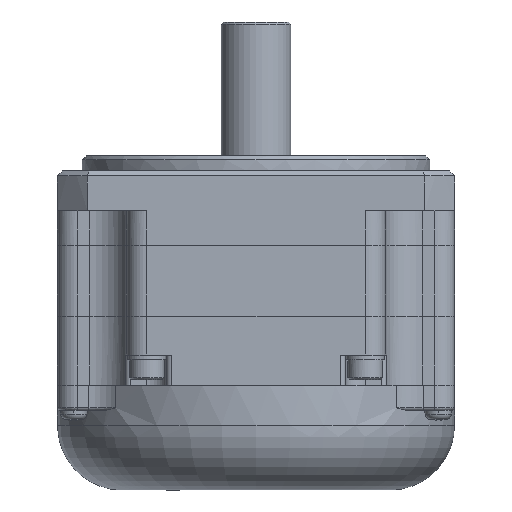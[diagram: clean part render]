
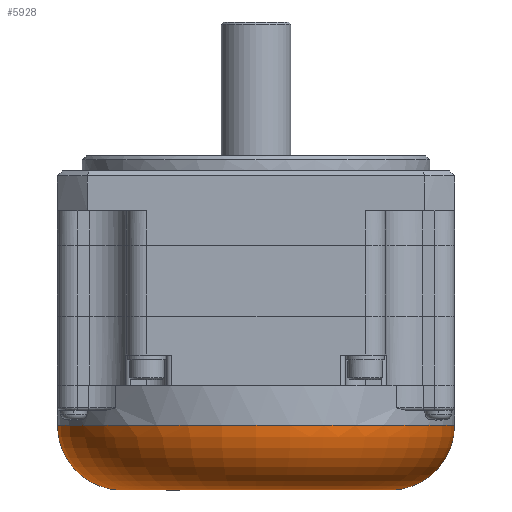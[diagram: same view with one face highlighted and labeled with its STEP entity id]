
A CAD part, front view. The second image highlights one B-rep face of the part: STEP entity #5928.
In plain terms, the highlighted toroidal (fillet/blend) face has major radius 27 mm and minor radius 13 mm.
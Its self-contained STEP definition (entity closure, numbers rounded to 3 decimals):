
#81 = EDGE_LOOP ( 'NONE', ( #8705, #8706, #8707, #8708 ) ) ;
#2972 = CIRCLE ( 'NONE', #21255, 40. ) ;
#3008 = CIRCLE ( 'NONE', #21261, 13. ) ;
#3011 = CIRCLE ( 'NONE', #21262, 13. ) ;
#3896 = EDGE_CURVE ( 'NONE', #12754, #12760, #2972, .T. ) ;
#3917 = EDGE_CURVE ( 'NONE', #12754, #12738, #3008, .T. ) ;
#3918 = EDGE_CURVE ( 'NONE', #12738, #12937, #4576, .T. ) ;
#3919 = EDGE_CURVE ( 'NONE', #12760, #12937, #3011, .T. ) ;
#4576 = B_SPLINE_CURVE_WITH_KNOTS ( 'NONE', 3,
 ( #9730, #9731, #9762, #9766, #9760, #9693, #9689, #9703, #9702, #9705, #9696, #9701, #9704, #9763, #9764, #9756, #9755, #9754, #9753, #9752, #9751, #9750, #9749, #9748, #9747, #9746, #9745, #9744, #9743, #9742, #9741, #9740, #9739, #9738 ),
 .UNSPECIFIED., .F., .F.,
 ( 4, 2, 2, 2, 2, 2, 2, 2, 2, 2, 2, 2, 2, 2, 2, 2, 4 ),
 ( 0.202, 0.24, 0.277, 0.314, 0.351, 0.388, 0.426, 0.463, 0.5, 0.537, 0.574, 0.612, 0.649, 0.686, 0.723, 0.76, 0.798 ),
 .UNSPECIFIED. ) ;
#5717 = CARTESIAN_POINT ( 'NONE',  ( -58.569, 31.551, -59.465 ) ) ;
#5718 = DIRECTION ( 'NONE',  ( 0., 0., -1. ) ) ;
#5719 = DIRECTION ( 'NONE',  ( 1., 0., 0. ) ) ;
#5928 = ADVANCED_FACE ( 'NONE', ( #19270 ), #19272, .T. ) ;
#6824 = DIRECTION ( 'NONE',  ( 0., 0., 1. ) ) ;
#6825 = DIRECTION ( 'NONE',  ( -1., 0., 0. ) ) ;
#6830 = CARTESIAN_POINT ( 'NONE',  ( -58.569, 31.551, -59.465 ) ) ;
#8705 = ORIENTED_EDGE ( 'NONE', *, *, #3896, .F. ) ;
#8706 = ORIENTED_EDGE ( 'NONE', *, *, #3917, .T. ) ;
#8707 = ORIENTED_EDGE ( 'NONE', *, *, #3918, .T. ) ;
#8708 = ORIENTED_EDGE ( 'NONE', *, *, #3919, .F. ) ;
#9689 = CARTESIAN_POINT ( 'NONE',  ( -82., 18.02, -72.465 ) ) ;
#9693 = CARTESIAN_POINT ( 'NONE',  ( -82.837, 19.586, -72.465 ) ) ;
#9696 = CARTESIAN_POINT ( 'NONE',  ( -75.038, 10.083, -72.465 ) ) ;
#9701 = CARTESIAN_POINT ( 'NONE',  ( -72.1, 8.12, -72.465 ) ) ;
#9702 = CARTESIAN_POINT ( 'NONE',  ( -78.91, 13.709, -72.465 ) ) ;
#9703 = CARTESIAN_POINT ( 'NONE',  ( -80.036, 15.082, -72.465 ) ) ;
#9704 = CARTESIAN_POINT ( 'NONE',  ( -70.534, 7.283, -72.465 ) ) ;
#9705 = CARTESIAN_POINT ( 'NONE',  ( -76.411, 11.21, -72.465 ) ) ;
#9730 = CARTESIAN_POINT ( 'NONE',  ( -85.569, 31.551, -72.465 ) ) ;
#9731 = CARTESIAN_POINT ( 'NONE',  ( -85.569, 29.784, -72.465 ) ) ;
#9732 = CARTESIAN_POINT ( 'NONE',  ( -85.569, 31.551, -59.465 ) ) ;
#9733 = DIRECTION ( 'NONE',  ( 0., -1., 0. ) ) ;
#9734 = DIRECTION ( 'NONE',  ( 0., 0., -1. ) ) ;
#9736 = DIRECTION ( 'NONE',  ( 0., 1., 0. ) ) ;
#9737 = CARTESIAN_POINT ( 'NONE',  ( -31.569, 31.551, -59.465 ) ) ;
#9738 = CARTESIAN_POINT ( 'NONE',  ( -31.568, 31.551, -72.465 ) ) ;
#9739 = CARTESIAN_POINT ( 'NONE',  ( -31.569, 29.784, -72.465 ) ) ;
#9740 = CARTESIAN_POINT ( 'NONE',  ( -31.743, 28.017, -72.465 ) ) ;
#9741 = CARTESIAN_POINT ( 'NONE',  ( -32.432, 24.551, -72.465 ) ) ;
#9742 = CARTESIAN_POINT ( 'NONE',  ( -32.948, 22.852, -72.465 ) ) ;
#9743 = CARTESIAN_POINT ( 'NONE',  ( -34.3, 19.586, -72.465 ) ) ;
#9744 = CARTESIAN_POINT ( 'NONE',  ( -35.137, 18.02, -72.465 ) ) ;
#9745 = CARTESIAN_POINT ( 'NONE',  ( -37.101, 15.082, -72.465 ) ) ;
#9746 = CARTESIAN_POINT ( 'NONE',  ( -38.227, 13.709, -72.465 ) ) ;
#9747 = CARTESIAN_POINT ( 'NONE',  ( -40.726, 11.21, -72.465 ) ) ;
#9748 = CARTESIAN_POINT ( 'NONE',  ( -42.099, 10.083, -72.465 ) ) ;
#9749 = CARTESIAN_POINT ( 'NONE',  ( -45.038, 8.12, -72.465 ) ) ;
#9750 = CARTESIAN_POINT ( 'NONE',  ( -46.604, 7.283, -72.465 ) ) ;
#9751 = CARTESIAN_POINT ( 'NONE',  ( -49.869, 5.93, -72.465 ) ) ;
#9752 = CARTESIAN_POINT ( 'NONE',  ( -51.568, 5.415, -72.465 ) ) ;
#9753 = CARTESIAN_POINT ( 'NONE',  ( -55.034, 4.725, -72.465 ) ) ;
#9754 = CARTESIAN_POINT ( 'NONE',  ( -56.801, 4.551, -72.465 ) ) ;
#9755 = CARTESIAN_POINT ( 'NONE',  ( -60.336, 4.551, -72.465 ) ) ;
#9756 = CARTESIAN_POINT ( 'NONE',  ( -62.103, 4.725, -72.465 ) ) ;
#9760 = CARTESIAN_POINT ( 'NONE',  ( -84.19, 22.852, -72.465 ) ) ;
#9761 = DIRECTION ( 'NONE',  ( 0., 0., 1. ) ) ;
#9762 = CARTESIAN_POINT ( 'NONE',  ( -85.395, 28.017, -72.465 ) ) ;
#9763 = CARTESIAN_POINT ( 'NONE',  ( -67.268, 5.93, -72.465 ) ) ;
#9764 = CARTESIAN_POINT ( 'NONE',  ( -65.569, 5.415, -72.465 ) ) ;
#9766 = CARTESIAN_POINT ( 'NONE',  ( -84.705, 24.551, -72.465 ) ) ;
#12738 = VERTEX_POINT ( 'NONE', #20001 ) ;
#12754 = VERTEX_POINT ( 'NONE', #20009 ) ;
#12760 = VERTEX_POINT ( 'NONE', #20012 ) ;
#12937 = VERTEX_POINT ( 'NONE', #14741 ) ;
#14741 = CARTESIAN_POINT ( 'NONE',  ( -31.568, 31.551, -72.465 ) ) ;
#16175 = AXIS2_PLACEMENT_3D ( 'NONE', #5717, #5718, #5719 ) ;
#19270 = FACE_OUTER_BOUND ( 'NONE', #81, .T. ) ;
#19272 = TOROIDAL_SURFACE ( 'NONE', #16175, 27., 13. ) ;
#20001 = CARTESIAN_POINT ( 'NONE',  ( -85.569, 31.551, -72.465 ) ) ;
#20009 = CARTESIAN_POINT ( 'NONE',  ( -98.569, 31.551, -59.465 ) ) ;
#20012 = CARTESIAN_POINT ( 'NONE',  ( -18.569, 31.551, -59.465 ) ) ;
#21255 = AXIS2_PLACEMENT_3D ( 'NONE', #6830, #6824, #6825 ) ;
#21261 = AXIS2_PLACEMENT_3D ( 'NONE', #9732, #9733, #9734 ) ;
#21262 = AXIS2_PLACEMENT_3D ( 'NONE', #9737, #9736, #9761 ) ;
